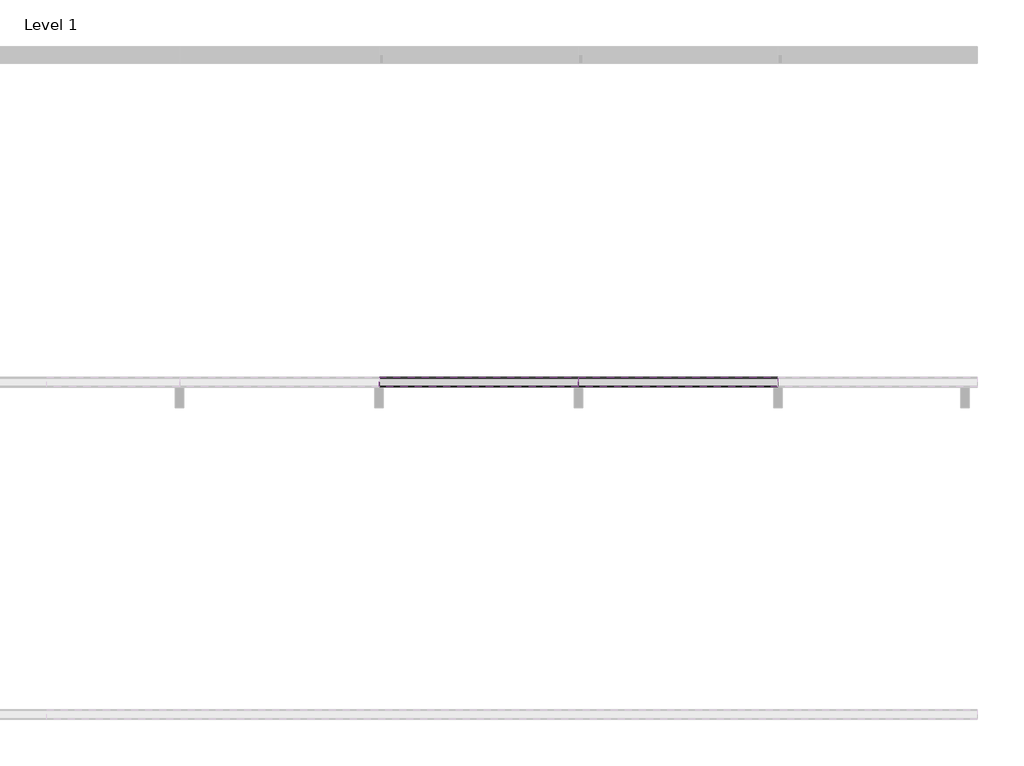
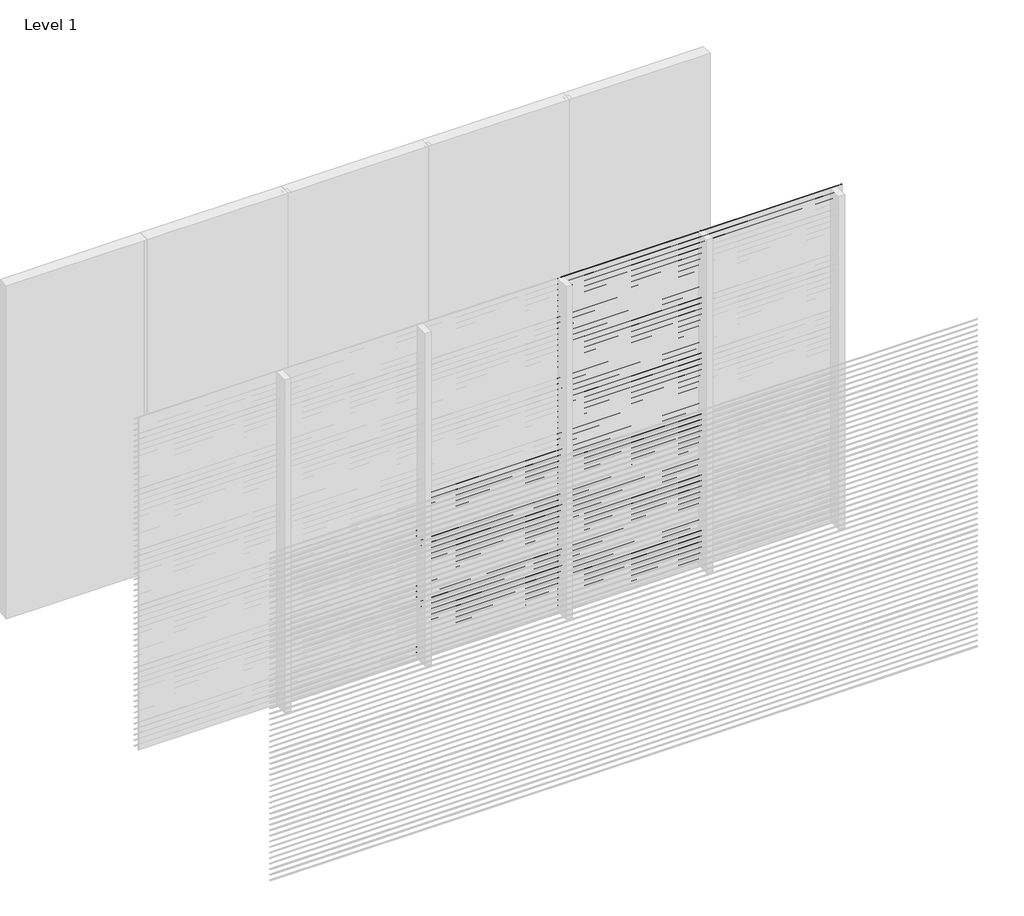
# One storey, part 4 of 16: 92 proxies.
"""IFC4 building model written with IfcOpenShell, lengths in millimetres."""

from ifc_helpers import new_model, si_unit, frame, origin, place, context, project, spatial, polyline, outline, extrude, element, save

model = new_model("IFC4")

# Units and contexts
model_context = context("Model", 3, world=origin())
ifc_project = project(units=[si_unit("LENGTHUNIT", "METRE", prefix="MILLI")], contexts=[model_context])

# Site, building, storey
site = spatial("IfcSite", under=ifc_project)
building = spatial("IfcBuilding", under=site)
storey = spatial("IfcBuildingStorey", under=building, Name="Level 1", Elevation=0.0)

# Proxies
placement = place(None, origin())
element("IfcBuildingElementProxy", 1, Name="Wall Sweeps", at=placement, inside=storey, context=model_context, shape_type="SweptSolid", body=[
    extrude(outline(polyline([(-17995.0, 3000.0), (-17995.0, 2998.0), (-17939.0, 2954.0), (-17939.0, 2946.0), (-17997.0, 2991.5714286), (-17997.0, 3000.0), (-17995.0, 3000.0)])), frame((4799.9999998, 0.0, 0.0), z_axis=(1.0, 0.0, 0.0), x_axis=(0.0, 1.0, 0.0)), (0.0, 0.0, 1.0), 1200.0000002),
])
element("IfcBuildingElementProxy", 2, Name="Wall Sweeps", at=placement, inside=storey, context=model_context, shape_type="SweptSolid", body=[
    extrude(outline(polyline([(-17995.0, 2950.0), (-17995.0, 2948.0), (-17939.0, 2904.0), (-17939.0, 2896.0), (-17997.0, 2941.5714286), (-17997.0, 2950.0), (-17995.0, 2950.0)])), frame((4799.9999998, 0.0, 0.0), z_axis=(1.0, 0.0, 0.0), x_axis=(0.0, 1.0, 0.0)), (0.0, 0.0, 1.0), 1200.0000002),
])
element("IfcBuildingElementProxy", 3, Name="Wall Sweeps", at=placement, inside=storey, context=model_context, shape_type="SweptSolid", body=[
    extrude(outline(polyline([(-17995.0, 2900.0), (-17995.0, 2898.0), (-17939.0, 2854.0), (-17939.0, 2846.0), (-17997.0, 2891.5714286), (-17997.0, 2900.0), (-17995.0, 2900.0)])), frame((4799.9999998, 0.0, 0.0), z_axis=(1.0, 0.0, 0.0), x_axis=(0.0, 1.0, 0.0)), (0.0, 0.0, 1.0), 1200.0000002),
])
element("IfcBuildingElementProxy", 4, Name="Wall Sweeps", at=placement, inside=storey, context=model_context, shape_type="SweptSolid", body=[
    extrude(outline(polyline([(-17995.0, 3000.0), (-17995.0, 2998.0), (-17939.0, 2954.0), (-17939.0, 2946.0), (-17997.0, 2991.5714286), (-17997.0, 3000.0), (-17995.0, 3000.0)])), frame((3599.9999999, 0.0, 0.0), z_axis=(1.0, 0.0, 0.0), x_axis=(0.0, 1.0, 0.0)), (0.0, 0.0, 1.0), 1199.9999999),
])
element("IfcBuildingElementProxy", 5, Name="Wall Sweeps", at=placement, inside=storey, context=model_context, shape_type="SweptSolid", body=[
    extrude(outline(polyline([(-17995.0, 2950.0), (-17995.0, 2948.0), (-17939.0, 2904.0), (-17939.0, 2896.0), (-17997.0, 2941.5714286), (-17997.0, 2950.0), (-17995.0, 2950.0)])), frame((3599.9999999, 0.0, 0.0), z_axis=(1.0, 0.0, 0.0), x_axis=(0.0, 1.0, 0.0)), (0.0, 0.0, 1.0), 1199.9999999),
])
element("IfcBuildingElementProxy", 6, Name="Wall Sweeps", at=placement, inside=storey, context=model_context, shape_type="SweptSolid", body=[
    extrude(outline(polyline([(-17995.0, 2900.0), (-17995.0, 2898.0), (-17939.0, 2854.0), (-17939.0, 2846.0), (-17997.0, 2891.5714286), (-17997.0, 2900.0), (-17995.0, 2900.0)])), frame((3599.9999999, 0.0, 0.0), z_axis=(1.0, 0.0, 0.0), x_axis=(0.0, 1.0, 0.0)), (0.0, 0.0, 1.0), 1199.9999999),
])
element("IfcBuildingElementProxy", 7, Name="Wall Sweeps", at=placement, inside=storey, context=model_context, shape_type="SweptSolid", body=[
    extrude(outline(polyline([(-17995.0, 2850.0), (-17995.0, 2848.0), (-17939.0, 2804.0), (-17939.0, 2796.0), (-17997.0, 2841.5714286), (-17997.0, 2850.0), (-17995.0, 2850.0)])), frame((3599.9999999, 0.0, 0.0), z_axis=(1.0, 0.0, 0.0), x_axis=(0.0, 1.0, 0.0)), (0.0, 0.0, 1.0), 1199.9999999),
])
element("IfcBuildingElementProxy", 8, Name="Wall Sweeps", at=placement, inside=storey, context=model_context, shape_type="SweptSolid", body=[
    extrude(outline(polyline([(-17995.0, 2800.0), (-17995.0, 2798.0), (-17939.0, 2754.0), (-17939.0, 2746.0), (-17997.0, 2791.5714286), (-17997.0, 2800.0), (-17995.0, 2800.0)])), frame((3599.9999999, 0.0, 0.0), z_axis=(1.0, 0.0, 0.0), x_axis=(0.0, 1.0, 0.0)), (0.0, 0.0, 1.0), 1199.9999999),
])
element("IfcBuildingElementProxy", 9, Name="Wall Sweeps", at=placement, inside=storey, context=model_context, shape_type="SweptSolid", body=[
    extrude(outline(polyline([(-17995.0, 2750.0), (-17995.0, 2748.0), (-17939.0, 2704.0), (-17939.0, 2696.0), (-17997.0, 2741.5714286), (-17997.0, 2750.0), (-17995.0, 2750.0)])), frame((3599.9999999, 0.0, 0.0), z_axis=(1.0, 0.0, 0.0), x_axis=(0.0, 1.0, 0.0)), (0.0, 0.0, 1.0), 1199.9999999),
])
element("IfcBuildingElementProxy", 10, Name="Wall Sweeps", at=placement, inside=storey, context=model_context, shape_type="SweptSolid", body=[
    extrude(outline(polyline([(-17995.0, 2700.0), (-17995.0, 2698.0), (-17939.0, 2654.0), (-17939.0, 2646.0), (-17997.0, 2691.5714286), (-17997.0, 2700.0), (-17995.0, 2700.0)])), frame((3599.9999999, 0.0, 0.0), z_axis=(1.0, 0.0, 0.0), x_axis=(0.0, 1.0, 0.0)), (0.0, 0.0, 1.0), 1199.9999999),
])
element("IfcBuildingElementProxy", 11, Name="Wall Sweeps", at=placement, inside=storey, context=model_context, shape_type="SweptSolid", body=[
    extrude(outline(polyline([(-17995.0, 2650.0), (-17995.0, 2648.0), (-17939.0, 2604.0), (-17939.0, 2596.0), (-17997.0, 2641.5714286), (-17997.0, 2650.0), (-17995.0, 2650.0)])), frame((3599.9999999, 0.0, 0.0), z_axis=(1.0, 0.0, 0.0), x_axis=(0.0, 1.0, 0.0)), (0.0, 0.0, 1.0), 1199.9999999),
])
element("IfcBuildingElementProxy", 12, Name="Wall Sweeps", at=placement, inside=storey, context=model_context, shape_type="SweptSolid", body=[
    extrude(outline(polyline([(-17995.0, 2600.0), (-17995.0, 2598.0), (-17939.0, 2554.0), (-17939.0, 2546.0), (-17997.0, 2591.5714286), (-17997.0, 2600.0), (-17995.0, 2600.0)])), frame((3599.9999999, 0.0, 0.0), z_axis=(1.0, 0.0, 0.0), x_axis=(0.0, 1.0, 0.0)), (0.0, 0.0, 1.0), 1199.9999999),
])
element("IfcBuildingElementProxy", 13, Name="Wall Sweeps", at=placement, inside=storey, context=model_context, shape_type="SweptSolid", body=[
    extrude(outline(polyline([(-17995.0, 2550.0), (-17995.0, 2548.0), (-17939.0, 2504.0), (-17939.0, 2496.0), (-17997.0, 2541.5714286), (-17997.0, 2550.0), (-17995.0, 2550.0)])), frame((3599.9999999, 0.0, 0.0), z_axis=(1.0, 0.0, 0.0), x_axis=(0.0, 1.0, 0.0)), (0.0, 0.0, 1.0), 1199.9999999),
])
element("IfcBuildingElementProxy", 14, Name="Wall Sweeps", at=placement, inside=storey, context=model_context, shape_type="SweptSolid", body=[
    extrude(outline(polyline([(-17995.0, 2500.0), (-17995.0, 2498.0), (-17939.0, 2454.0), (-17939.0, 2446.0), (-17997.0, 2491.5714286), (-17997.0, 2500.0), (-17995.0, 2500.0)])), frame((3599.9999999, 0.0, 0.0), z_axis=(1.0, 0.0, 0.0), x_axis=(0.0, 1.0, 0.0)), (0.0, 0.0, 1.0), 1199.9999999),
])
element("IfcBuildingElementProxy", 15, Name="Wall Sweeps", at=placement, inside=storey, context=model_context, shape_type="SweptSolid", body=[
    extrude(outline(polyline([(-17995.0, 2450.0), (-17995.0, 2448.0), (-17939.0, 2404.0), (-17939.0, 2396.0), (-17997.0, 2441.5714286), (-17997.0, 2450.0), (-17995.0, 2450.0)])), frame((3599.9999999, 0.0, 0.0), z_axis=(1.0, 0.0, 0.0), x_axis=(0.0, 1.0, 0.0)), (0.0, 0.0, 1.0), 1199.9999999),
])
element("IfcBuildingElementProxy", 16, Name="Wall Sweeps", at=placement, inside=storey, context=model_context, shape_type="SweptSolid", body=[
    extrude(outline(polyline([(-17995.0, 2400.0), (-17995.0, 2398.0), (-17939.0, 2354.0), (-17939.0, 2346.0), (-17997.0, 2391.5714286), (-17997.0, 2400.0), (-17995.0, 2400.0)])), frame((3599.9999999, 0.0, 0.0), z_axis=(1.0, 0.0, 0.0), x_axis=(0.0, 1.0, 0.0)), (0.0, 0.0, 1.0), 1199.9999999),
])
element("IfcBuildingElementProxy", 17, Name="Wall Sweeps", at=placement, inside=storey, context=model_context, shape_type="SweptSolid", body=[
    extrude(outline(polyline([(-17995.0, 2350.0), (-17995.0, 2348.0), (-17939.0, 2304.0), (-17939.0, 2296.0), (-17997.0, 2341.5714286), (-17997.0, 2350.0), (-17995.0, 2350.0)])), frame((3599.9999999, 0.0, 0.0), z_axis=(1.0, 0.0, 0.0), x_axis=(0.0, 1.0, 0.0)), (0.0, 0.0, 1.0), 1199.9999999),
])
element("IfcBuildingElementProxy", 18, Name="Wall Sweeps", at=placement, inside=storey, context=model_context, shape_type="SweptSolid", body=[
    extrude(outline(polyline([(-17995.0, 2300.0), (-17995.0, 2298.0), (-17939.0, 2254.0), (-17939.0, 2246.0), (-17997.0, 2291.5714286), (-17997.0, 2300.0), (-17995.0, 2300.0)])), frame((3599.9999999, 0.0, 0.0), z_axis=(1.0, 0.0, 0.0), x_axis=(0.0, 1.0, 0.0)), (0.0, 0.0, 1.0), 1199.9999999),
])
element("IfcBuildingElementProxy", 19, Name="Wall Sweeps", at=placement, inside=storey, context=model_context, shape_type="SweptSolid", body=[
    extrude(outline(polyline([(-17995.0, 2250.0), (-17995.0, 2248.0), (-17939.0, 2204.0), (-17939.0, 2196.0), (-17997.0, 2241.5714286), (-17997.0, 2250.0), (-17995.0, 2250.0)])), frame((3599.9999999, 0.0, 0.0), z_axis=(1.0, 0.0, 0.0), x_axis=(0.0, 1.0, 0.0)), (0.0, 0.0, 1.0), 1199.9999999),
])
element("IfcBuildingElementProxy", 20, Name="Wall Sweeps", at=placement, inside=storey, context=model_context, shape_type="SweptSolid", body=[
    extrude(outline(polyline([(-17995.0, 2200.0), (-17995.0, 2198.0), (-17939.0, 2154.0), (-17939.0, 2146.0), (-17997.0, 2191.5714286), (-17997.0, 2200.0), (-17995.0, 2200.0)])), frame((3599.9999999, 0.0, 0.0), z_axis=(1.0, 0.0, 0.0), x_axis=(0.0, 1.0, 0.0)), (0.0, 0.0, 1.0), 1199.9999999),
])
element("IfcBuildingElementProxy", 21, Name="Wall Sweeps", at=placement, inside=storey, context=model_context, shape_type="SweptSolid", body=[
    extrude(outline(polyline([(-17995.0, 2150.0), (-17995.0, 2148.0), (-17939.0, 2104.0), (-17939.0, 2096.0), (-17997.0, 2141.5714286), (-17997.0, 2150.0), (-17995.0, 2150.0)])), frame((3599.9999999, 0.0, 0.0), z_axis=(1.0, 0.0, 0.0), x_axis=(0.0, 1.0, 0.0)), (0.0, 0.0, 1.0), 1199.9999999),
])
element("IfcBuildingElementProxy", 22, Name="Wall Sweeps", at=placement, inside=storey, context=model_context, shape_type="SweptSolid", body=[
    extrude(outline(polyline([(-17995.0, 2100.0), (-17995.0, 2098.0), (-17939.0, 2054.0), (-17939.0, 2046.0), (-17997.0, 2091.5714286), (-17997.0, 2100.0), (-17995.0, 2100.0)])), frame((3599.9999999, 0.0, 0.0), z_axis=(1.0, 0.0, 0.0), x_axis=(0.0, 1.0, 0.0)), (0.0, 0.0, 1.0), 1199.9999999),
])
element("IfcBuildingElementProxy", 23, Name="Wall Sweeps", at=placement, inside=storey, context=model_context, shape_type="SweptSolid", body=[
    extrude(outline(polyline([(-17995.0, 2050.0), (-17995.0, 2048.0), (-17939.0, 2004.0), (-17939.0, 1996.0), (-17997.0, 2041.5714286), (-17997.0, 2050.0), (-17995.0, 2050.0)])), frame((3599.9999999, 0.0, 0.0), z_axis=(1.0, 0.0, 0.0), x_axis=(0.0, 1.0, 0.0)), (0.0, 0.0, 1.0), 1199.9999999),
])
element("IfcBuildingElementProxy", 24, Name="Wall Sweeps", at=placement, inside=storey, context=model_context, shape_type="SweptSolid", body=[
    extrude(outline(polyline([(-17995.0, 2000.0), (-17995.0, 1998.0), (-17939.0, 1954.0), (-17939.0, 1946.0), (-17997.0, 1991.5714286), (-17997.0, 2000.0), (-17995.0, 2000.0)])), frame((3599.9999999, 0.0, 0.0), z_axis=(1.0, 0.0, 0.0), x_axis=(0.0, 1.0, 0.0)), (0.0, 0.0, 1.0), 1199.9999999),
])
element("IfcBuildingElementProxy", 25, Name="Wall Sweeps", at=placement, inside=storey, context=model_context, shape_type="SweptSolid", body=[
    extrude(outline(polyline([(-17995.0, 1950.0), (-17995.0, 1948.0), (-17939.0, 1904.0), (-17939.0, 1896.0), (-17997.0, 1941.5714286), (-17997.0, 1950.0), (-17995.0, 1950.0)])), frame((3599.9999999, 0.0, 0.0), z_axis=(1.0, 0.0, 0.0), x_axis=(0.0, 1.0, 0.0)), (0.0, 0.0, 1.0), 1199.9999999),
])
element("IfcBuildingElementProxy", 26, Name="Wall Sweeps", at=placement, inside=storey, context=model_context, shape_type="SweptSolid", body=[
    extrude(outline(polyline([(-17995.0, 1900.0), (-17995.0, 1898.0), (-17939.0, 1854.0), (-17939.0, 1846.0), (-17997.0, 1891.5714286), (-17997.0, 1900.0), (-17995.0, 1900.0)])), frame((3599.9999999, 0.0, 0.0), z_axis=(1.0, 0.0, 0.0), x_axis=(0.0, 1.0, 0.0)), (0.0, 0.0, 1.0), 1199.9999999),
])
element("IfcBuildingElementProxy", 27, Name="Wall Sweeps", at=placement, inside=storey, context=model_context, shape_type="SweptSolid", body=[
    extrude(outline(polyline([(-17995.0, 1850.0), (-17995.0, 1848.0), (-17939.0, 1804.0), (-17939.0, 1796.0), (-17997.0, 1841.5714286), (-17997.0, 1850.0), (-17995.0, 1850.0)])), frame((3599.9999999, 0.0, 0.0), z_axis=(1.0, 0.0, 0.0), x_axis=(0.0, 1.0, 0.0)), (0.0, 0.0, 1.0), 1199.9999999),
])
element("IfcBuildingElementProxy", 28, Name="Wall Sweeps", at=placement, inside=storey, context=model_context, shape_type="SweptSolid", body=[
    extrude(outline(polyline([(-17995.0, 1800.0), (-17995.0, 1798.0), (-17939.0, 1754.0), (-17939.0, 1746.0), (-17997.0, 1791.5714286), (-17997.0, 1800.0), (-17995.0, 1800.0)])), frame((3599.9999999, 0.0, 0.0), z_axis=(1.0, 0.0, 0.0), x_axis=(0.0, 1.0, 0.0)), (0.0, 0.0, 1.0), 1199.9999999),
])
element("IfcBuildingElementProxy", 29, Name="Wall Sweeps", at=placement, inside=storey, context=model_context, shape_type="SweptSolid", body=[
    extrude(outline(polyline([(-17995.0, 1750.0), (-17995.0, 1748.0), (-17939.0, 1704.0), (-17939.0, 1696.0), (-17997.0, 1741.5714286), (-17997.0, 1750.0), (-17995.0, 1750.0)])), frame((3599.9999999, 0.0, 0.0), z_axis=(1.0, 0.0, 0.0), x_axis=(0.0, 1.0, 0.0)), (0.0, 0.0, 1.0), 1199.9999999),
])
element("IfcBuildingElementProxy", 30, Name="Wall Sweeps", at=placement, inside=storey, context=model_context, shape_type="SweptSolid", body=[
    extrude(outline(polyline([(-17995.0, 1700.0), (-17995.0, 1698.0), (-17939.0, 1654.0), (-17939.0, 1646.0), (-17997.0, 1691.5714286), (-17997.0, 1700.0), (-17995.0, 1700.0)])), frame((3599.9999999, 0.0, 0.0), z_axis=(1.0, 0.0, 0.0), x_axis=(0.0, 1.0, 0.0)), (0.0, 0.0, 1.0), 1199.9999999),
])
element("IfcBuildingElementProxy", 31, Name="Wall Sweeps", at=placement, inside=storey, context=model_context, shape_type="SweptSolid", body=[
    extrude(outline(polyline([(-17995.0, 1650.0), (-17995.0, 1648.0), (-17939.0, 1604.0), (-17939.0, 1596.0), (-17997.0, 1641.5714286), (-17997.0, 1650.0), (-17995.0, 1650.0)])), frame((3599.9999999, 0.0, 0.0), z_axis=(1.0, 0.0, 0.0), x_axis=(0.0, 1.0, 0.0)), (0.0, 0.0, 1.0), 1199.9999999),
])
element("IfcBuildingElementProxy", 32, Name="Wall Sweeps", at=placement, inside=storey, context=model_context, shape_type="SweptSolid", body=[
    extrude(outline(polyline([(-17995.0, 1600.0), (-17995.0, 1598.0), (-17939.0, 1554.0), (-17939.0, 1546.0), (-17997.0, 1591.5714286), (-17997.0, 1600.0), (-17995.0, 1600.0)])), frame((3599.9999999, 0.0, 0.0), z_axis=(1.0, 0.0, 0.0), x_axis=(0.0, 1.0, 0.0)), (0.0, 0.0, 1.0), 1199.9999999),
])
element("IfcBuildingElementProxy", 33, Name="Wall Sweeps", at=placement, inside=storey, context=model_context, shape_type="SweptSolid", body=[
    extrude(outline(polyline([(-17995.0, 1550.0), (-17995.0, 1548.0), (-17939.0, 1504.0), (-17939.0, 1496.0), (-17997.0, 1541.5714286), (-17997.0, 1550.0), (-17995.0, 1550.0)])), frame((3599.9999999, 0.0, 0.0), z_axis=(1.0, 0.0, 0.0), x_axis=(0.0, 1.0, 0.0)), (0.0, 0.0, 1.0), 1199.9999999),
])
element("IfcBuildingElementProxy", 34, Name="Wall Sweeps", at=placement, inside=storey, context=model_context, shape_type="SweptSolid", body=[
    extrude(outline(polyline([(-17995.0, 1500.0), (-17995.0, 1498.0), (-17939.0, 1454.0), (-17939.0, 1446.0), (-17997.0, 1491.5714286), (-17997.0, 1500.0), (-17995.0, 1500.0)])), frame((3599.9999999, 0.0, 0.0), z_axis=(1.0, 0.0, 0.0), x_axis=(0.0, 1.0, 0.0)), (0.0, 0.0, 1.0), 1199.9999999),
])
element("IfcBuildingElementProxy", 35, Name="Wall Sweeps", at=placement, inside=storey, context=model_context, shape_type="SweptSolid", body=[
    extrude(outline(polyline([(-17995.0, 1450.0), (-17995.0, 1448.0), (-17939.0, 1404.0), (-17939.0, 1396.0), (-17997.0, 1441.5714286), (-17997.0, 1450.0), (-17995.0, 1450.0)])), frame((3599.9999999, 0.0, 0.0), z_axis=(1.0, 0.0, 0.0), x_axis=(0.0, 1.0, 0.0)), (0.0, 0.0, 1.0), 1199.9999999),
])
element("IfcBuildingElementProxy", 36, Name="Wall Sweeps", at=placement, inside=storey, context=model_context, shape_type="SweptSolid", body=[
    extrude(outline(polyline([(-17995.0, 1400.0), (-17995.0, 1398.0), (-17939.0, 1354.0), (-17939.0, 1346.0), (-17997.0, 1391.5714286), (-17997.0, 1400.0), (-17995.0, 1400.0)])), frame((3599.9999999, 0.0, 0.0), z_axis=(1.0, 0.0, 0.0), x_axis=(0.0, 1.0, 0.0)), (0.0, 0.0, 1.0), 1199.9999999),
])
element("IfcBuildingElementProxy", 37, Name="Wall Sweeps", at=placement, inside=storey, context=model_context, shape_type="SweptSolid", body=[
    extrude(outline(polyline([(-17995.0, 1350.0), (-17995.0, 1348.0), (-17939.0, 1304.0), (-17939.0, 1296.0), (-17997.0, 1341.5714286), (-17997.0, 1350.0), (-17995.0, 1350.0)])), frame((3599.9999999, 0.0, 0.0), z_axis=(1.0, 0.0, 0.0), x_axis=(0.0, 1.0, 0.0)), (0.0, 0.0, 1.0), 1199.9999999),
])
element("IfcBuildingElementProxy", 38, Name="Wall Sweeps", at=placement, inside=storey, context=model_context, shape_type="SweptSolid", body=[
    extrude(outline(polyline([(-17995.0, 1300.0), (-17995.0, 1298.0), (-17939.0, 1254.0), (-17939.0, 1246.0), (-17997.0, 1291.5714286), (-17997.0, 1300.0), (-17995.0, 1300.0)])), frame((3599.9999999, 0.0, 0.0), z_axis=(1.0, 0.0, 0.0), x_axis=(0.0, 1.0, 0.0)), (0.0, 0.0, 1.0), 1199.9999999),
])
element("IfcBuildingElementProxy", 39, Name="Wall Sweeps", at=placement, inside=storey, context=model_context, shape_type="SweptSolid", body=[
    extrude(outline(polyline([(-17995.0, 1250.0), (-17995.0, 1248.0), (-17939.0, 1204.0), (-17939.0, 1196.0), (-17997.0, 1241.5714286), (-17997.0, 1250.0), (-17995.0, 1250.0)])), frame((3599.9999999, 0.0, 0.0), z_axis=(1.0, 0.0, 0.0), x_axis=(0.0, 1.0, 0.0)), (0.0, 0.0, 1.0), 1199.9999999),
])
element("IfcBuildingElementProxy", 40, Name="Wall Sweeps", at=placement, inside=storey, context=model_context, shape_type="SweptSolid", body=[
    extrude(outline(polyline([(-17995.0, 1200.0), (-17995.0, 1198.0), (-17939.0, 1154.0), (-17939.0, 1146.0), (-17997.0, 1191.5714286), (-17997.0, 1200.0), (-17995.0, 1200.0)])), frame((3599.9999999, 0.0, 0.0), z_axis=(1.0, 0.0, 0.0), x_axis=(0.0, 1.0, 0.0)), (0.0, 0.0, 1.0), 1199.9999999),
])
element("IfcBuildingElementProxy", 41, Name="Wall Sweeps", at=placement, inside=storey, context=model_context, shape_type="SweptSolid", body=[
    extrude(outline(polyline([(-17995.0, 1150.0), (-17995.0, 1148.0), (-17939.0, 1104.0), (-17939.0, 1096.0), (-17997.0, 1141.5714286), (-17997.0, 1150.0), (-17995.0, 1150.0)])), frame((3599.9999999, 0.0, 0.0), z_axis=(1.0, 0.0, 0.0), x_axis=(0.0, 1.0, 0.0)), (0.0, 0.0, 1.0), 1199.9999999),
])
element("IfcBuildingElementProxy", 42, Name="Wall Sweeps", at=placement, inside=storey, context=model_context, shape_type="SweptSolid", body=[
    extrude(outline(polyline([(-17995.0, 1100.0), (-17995.0, 1098.0), (-17939.0, 1054.0), (-17939.0, 1046.0), (-17997.0, 1091.5714286), (-17997.0, 1100.0), (-17995.0, 1100.0)])), frame((3599.9999999, 0.0, 0.0), z_axis=(1.0, 0.0, 0.0), x_axis=(0.0, 1.0, 0.0)), (0.0, 0.0, 1.0), 1199.9999999),
])
element("IfcBuildingElementProxy", 43, Name="Wall Sweeps", at=placement, inside=storey, context=model_context, shape_type="SweptSolid", body=[
    extrude(outline(polyline([(-17995.0, 1050.0), (-17995.0, 1048.0), (-17939.0, 1004.0), (-17939.0, 996.0), (-17997.0, 1041.5714286), (-17997.0, 1050.0), (-17995.0, 1050.0)])), frame((3599.9999999, 0.0, 0.0), z_axis=(1.0, 0.0, 0.0), x_axis=(0.0, 1.0, 0.0)), (0.0, 0.0, 1.0), 1199.9999999),
])
element("IfcBuildingElementProxy", 44, Name="Wall Sweeps", at=placement, inside=storey, context=model_context, shape_type="SweptSolid", body=[
    extrude(outline(polyline([(-17995.0, 1000.0), (-17995.0, 998.0), (-17939.0, 954.0), (-17939.0, 946.0), (-17997.0, 991.5714286), (-17997.0, 1000.0), (-17995.0, 1000.0)])), frame((3599.9999999, 0.0, 0.0), z_axis=(1.0, 0.0, 0.0), x_axis=(0.0, 1.0, 0.0)), (0.0, 0.0, 1.0), 1199.9999999),
])
element("IfcBuildingElementProxy", 45, Name="Wall Sweeps", at=placement, inside=storey, context=model_context, shape_type="SweptSolid", body=[
    extrude(outline(polyline([(-17995.0, 950.0), (-17995.0, 948.0), (-17939.0, 904.0), (-17939.0, 896.0), (-17997.0, 941.5714286), (-17997.0, 950.0), (-17995.0, 950.0)])), frame((3599.9999999, 0.0, 0.0), z_axis=(1.0, 0.0, 0.0), x_axis=(0.0, 1.0, 0.0)), (0.0, 0.0, 1.0), 1199.9999999),
])
element("IfcBuildingElementProxy", 46, Name="Wall Sweeps", at=placement, inside=storey, context=model_context, shape_type="SweptSolid", body=[
    extrude(outline(polyline([(-17995.0, 900.0), (-17995.0, 898.0), (-17939.0, 854.0), (-17939.0, 846.0), (-17997.0, 891.5714286), (-17997.0, 900.0), (-17995.0, 900.0)])), frame((3599.9999999, 0.0, 0.0), z_axis=(1.0, 0.0, 0.0), x_axis=(0.0, 1.0, 0.0)), (0.0, 0.0, 1.0), 1199.9999999),
])
element("IfcBuildingElementProxy", 47, Name="Wall Sweeps", at=placement, inside=storey, context=model_context, shape_type="SweptSolid", body=[
    extrude(outline(polyline([(-17995.0, 850.0), (-17995.0, 848.0), (-17939.0, 804.0), (-17939.0, 796.0), (-17997.0, 841.5714286), (-17997.0, 850.0), (-17995.0, 850.0)])), frame((3599.9999999, 0.0, 0.0), z_axis=(1.0, 0.0, 0.0), x_axis=(0.0, 1.0, 0.0)), (0.0, 0.0, 1.0), 1199.9999999),
])
element("IfcBuildingElementProxy", 48, Name="Wall Sweeps", at=placement, inside=storey, context=model_context, shape_type="SweptSolid", body=[
    extrude(outline(polyline([(-17995.0, 800.0), (-17995.0, 798.0), (-17939.0, 754.0), (-17939.0, 746.0), (-17997.0, 791.5714286), (-17997.0, 800.0), (-17995.0, 800.0)])), frame((3599.9999999, 0.0, 0.0), z_axis=(1.0, 0.0, 0.0), x_axis=(0.0, 1.0, 0.0)), (0.0, 0.0, 1.0), 1199.9999999),
])
element("IfcBuildingElementProxy", 49, Name="Wall Sweeps", at=placement, inside=storey, context=model_context, shape_type="SweptSolid", body=[
    extrude(outline(polyline([(-17995.0, 750.0), (-17995.0, 748.0), (-17939.0, 704.0), (-17939.0, 696.0), (-17997.0, 741.5714286), (-17997.0, 750.0), (-17995.0, 750.0)])), frame((3599.9999999, 0.0, 0.0), z_axis=(1.0, 0.0, 0.0), x_axis=(0.0, 1.0, 0.0)), (0.0, 0.0, 1.0), 1199.9999999),
])
element("IfcBuildingElementProxy", 50, Name="Wall Sweeps", at=placement, inside=storey, context=model_context, shape_type="SweptSolid", body=[
    extrude(outline(polyline([(-17995.0, 700.0), (-17995.0, 698.0), (-17939.0, 654.0), (-17939.0, 646.0), (-17997.0, 691.5714286), (-17997.0, 700.0), (-17995.0, 700.0)])), frame((3599.9999999, 0.0, 0.0), z_axis=(1.0, 0.0, 0.0), x_axis=(0.0, 1.0, 0.0)), (0.0, 0.0, 1.0), 1199.9999999),
])
element("IfcBuildingElementProxy", 51, Name="Wall Sweeps", at=placement, inside=storey, context=model_context, shape_type="SweptSolid", body=[
    extrude(outline(polyline([(-17995.0, 650.0), (-17995.0, 648.0), (-17939.0, 604.0), (-17939.0, 596.0), (-17997.0, 641.5714286), (-17997.0, 650.0), (-17995.0, 650.0)])), frame((3599.9999999, 0.0, 0.0), z_axis=(1.0, 0.0, 0.0), x_axis=(0.0, 1.0, 0.0)), (0.0, 0.0, 1.0), 1199.9999999),
])
element("IfcBuildingElementProxy", 52, Name="Wall Sweeps", at=placement, inside=storey, context=model_context, shape_type="SweptSolid", body=[
    extrude(outline(polyline([(-17995.0, 600.0), (-17995.0, 598.0), (-17939.0, 554.0), (-17939.0, 546.0), (-17997.0, 591.5714286), (-17997.0, 600.0), (-17995.0, 600.0)])), frame((3599.9999999, 0.0, 0.0), z_axis=(1.0, 0.0, 0.0), x_axis=(0.0, 1.0, 0.0)), (0.0, 0.0, 1.0), 1199.9999999),
])
element("IfcBuildingElementProxy", 53, Name="Wall Sweeps", at=placement, inside=storey, context=model_context, shape_type="SweptSolid", body=[
    extrude(outline(polyline([(-17995.0, 550.0), (-17995.0, 548.0), (-17939.0, 504.0), (-17939.0, 496.0), (-17997.0, 541.5714286), (-17997.0, 550.0), (-17995.0, 550.0)])), frame((3599.9999999, 0.0, 0.0), z_axis=(1.0, 0.0, 0.0), x_axis=(0.0, 1.0, 0.0)), (0.0, 0.0, 1.0), 1199.9999999),
])
element("IfcBuildingElementProxy", 54, Name="Wall Sweeps", at=placement, inside=storey, context=model_context, shape_type="SweptSolid", body=[
    extrude(outline(polyline([(-17995.0, 500.0), (-17995.0, 498.0), (-17939.0, 454.0), (-17939.0, 446.0), (-17997.0, 491.5714286), (-17997.0, 500.0), (-17995.0, 500.0)])), frame((3599.9999999, 0.0, 0.0), z_axis=(1.0, 0.0, 0.0), x_axis=(0.0, 1.0, 0.0)), (0.0, 0.0, 1.0), 1199.9999999),
])
element("IfcBuildingElementProxy", 55, Name="Wall Sweeps", at=placement, inside=storey, context=model_context, shape_type="SweptSolid", body=[
    extrude(outline(polyline([(-17995.0, 450.0), (-17995.0, 448.0), (-17939.0, 404.0), (-17939.0, 396.0), (-17997.0, 441.5714286), (-17997.0, 450.0), (-17995.0, 450.0)])), frame((3599.9999999, 0.0, 0.0), z_axis=(1.0, 0.0, 0.0), x_axis=(0.0, 1.0, 0.0)), (0.0, 0.0, 1.0), 1199.9999999),
])
element("IfcBuildingElementProxy", 56, Name="Wall Sweeps", at=placement, inside=storey, context=model_context, shape_type="SweptSolid", body=[
    extrude(outline(polyline([(-17995.0, 400.0), (-17995.0, 398.0), (-17939.0, 354.0), (-17939.0, 346.0), (-17997.0, 391.5714286), (-17997.0, 400.0), (-17995.0, 400.0)])), frame((3599.9999999, 0.0, 0.0), z_axis=(1.0, 0.0, 0.0), x_axis=(0.0, 1.0, 0.0)), (0.0, 0.0, 1.0), 1199.9999999),
])
element("IfcBuildingElementProxy", 57, Name="Wall Sweeps", at=placement, inside=storey, context=model_context, shape_type="SweptSolid", body=[
    extrude(outline(polyline([(-17995.0, 350.0), (-17995.0, 348.0), (-17939.0, 304.0), (-17939.0, 296.0), (-17997.0, 341.5714286), (-17997.0, 350.0), (-17995.0, 350.0)])), frame((3599.9999999, 0.0, 0.0), z_axis=(1.0, 0.0, 0.0), x_axis=(0.0, 1.0, 0.0)), (0.0, 0.0, 1.0), 1199.9999999),
])
element("IfcBuildingElementProxy", 58, Name="Wall Sweeps", at=placement, inside=storey, context=model_context, shape_type="SweptSolid", body=[
    extrude(outline(polyline([(-17995.0, 300.0), (-17995.0, 298.0), (-17939.0, 254.0), (-17939.0, 246.0), (-17997.0, 291.5714286), (-17997.0, 300.0), (-17995.0, 300.0)])), frame((3599.9999999, 0.0, 0.0), z_axis=(1.0, 0.0, 0.0), x_axis=(0.0, 1.0, 0.0)), (0.0, 0.0, 1.0), 1199.9999999),
])
element("IfcBuildingElementProxy", 59, Name="Wall Sweeps", at=placement, inside=storey, context=model_context, shape_type="SweptSolid", body=[
    extrude(outline(polyline([(-17995.0, 250.0), (-17995.0, 248.0), (-17939.0, 204.0), (-17939.0, 196.0), (-17997.0, 241.5714286), (-17997.0, 250.0), (-17995.0, 250.0)])), frame((3599.9999999, 0.0, 0.0), z_axis=(1.0, 0.0, 0.0), x_axis=(0.0, 1.0, 0.0)), (0.0, 0.0, 1.0), 1199.9999999),
])
element("IfcBuildingElementProxy", 60, Name="Wall Sweeps", at=placement, inside=storey, context=model_context, shape_type="SweptSolid", body=[
    extrude(outline(polyline([(-17995.0, 200.0), (-17995.0, 198.0), (-17939.0, 154.0), (-17939.0, 146.0), (-17997.0, 191.5714286), (-17997.0, 200.0), (-17995.0, 200.0)])), frame((3599.9999999, 0.0, 0.0), z_axis=(1.0, 0.0, 0.0), x_axis=(0.0, 1.0, 0.0)), (0.0, 0.0, 1.0), 1199.9999999),
])
element("IfcBuildingElementProxy", 61, Name="Wall Sweeps", at=placement, inside=storey, context=model_context, shape_type="SweptSolid", body=[
    extrude(outline(polyline([(-17995.0, 150.0), (-17995.0, 148.0), (-17939.0, 104.0), (-17939.0, 96.0), (-17997.0, 141.5714286), (-17997.0, 150.0), (-17995.0, 150.0)])), frame((3599.9999999, 0.0, 0.0), z_axis=(1.0, 0.0, 0.0), x_axis=(0.0, 1.0, 0.0)), (0.0, 0.0, 1.0), 1199.9999999),
])
element("IfcBuildingElementProxy", 62, Name="Wall Sweeps", at=placement, inside=storey, context=model_context, shape_type="SweptSolid", body=[
    extrude(outline(polyline([(-17995.0, 100.0), (-17995.0, 98.0), (-17939.0, 54.0), (-17939.0, 46.0), (-17997.0, 91.5714286), (-17997.0, 100.0), (-17995.0, 100.0)])), frame((3599.9999999, 0.0, 0.0), z_axis=(1.0, 0.0, 0.0), x_axis=(0.0, 1.0, 0.0)), (0.0, 0.0, 1.0), 1199.9999999),
])
element("IfcBuildingElementProxy", 63, Name="Wall Sweeps", at=placement, inside=storey, context=model_context, shape_type="SweptSolid", body=[
    extrude(outline(polyline([(-17995.0, 50.0), (-17995.0, 48.0), (-17939.0, 4.0), (-17939.0, -4.0), (-17997.0, 41.5714286), (-17997.0, 50.0), (-17995.0, 50.0)])), frame((3599.9999999, 0.0, 0.0), z_axis=(1.0, 0.0, 0.0), x_axis=(0.0, 1.0, 0.0)), (0.0, 0.0, 1.0), 1199.9999999),
])
element("IfcBuildingElementProxy", 64, Name="Wall Sweeps", at=placement, inside=storey, context=model_context, shape_type="SweptSolid", body=[
    extrude(outline(polyline([(-17995.0, 1450.0), (-17995.0, 1448.0), (-17939.0, 1404.0), (-17939.0, 1396.0), (-17997.0, 1441.5714286), (-17997.0, 1450.0), (-17995.0, 1450.0)])), frame((2400.0000001, 0.0, 0.0), z_axis=(1.0, 0.0, 0.0), x_axis=(0.0, 1.0, 0.0)), (0.0, 0.0, 1.0), 1199.9999999),
])
element("IfcBuildingElementProxy", 65, Name="Wall Sweeps", at=placement, inside=storey, context=model_context, shape_type="SweptSolid", body=[
    extrude(outline(polyline([(-17995.0, 1400.0), (-17995.0, 1398.0), (-17939.0, 1354.0), (-17939.0, 1346.0), (-17997.0, 1391.5714286), (-17997.0, 1400.0), (-17995.0, 1400.0)])), frame((2400.0000001, 0.0, 0.0), z_axis=(1.0, 0.0, 0.0), x_axis=(0.0, 1.0, 0.0)), (0.0, 0.0, 1.0), 1199.9999999),
])
element("IfcBuildingElementProxy", 66, Name="Wall Sweeps", at=placement, inside=storey, context=model_context, shape_type="SweptSolid", body=[
    extrude(outline(polyline([(-17995.0, 1350.0), (-17995.0, 1348.0), (-17939.0, 1304.0), (-17939.0, 1296.0), (-17997.0, 1341.5714286), (-17997.0, 1350.0), (-17995.0, 1350.0)])), frame((2400.0000001, 0.0, 0.0), z_axis=(1.0, 0.0, 0.0), x_axis=(0.0, 1.0, 0.0)), (0.0, 0.0, 1.0), 1199.9999999),
])
element("IfcBuildingElementProxy", 67, Name="Wall Sweeps", at=placement, inside=storey, context=model_context, shape_type="SweptSolid", body=[
    extrude(outline(polyline([(-17995.0, 1300.0), (-17995.0, 1298.0), (-17939.0, 1254.0), (-17939.0, 1246.0), (-17997.0, 1291.5714286), (-17997.0, 1300.0), (-17995.0, 1300.0)])), frame((2400.0000001, 0.0, 0.0), z_axis=(1.0, 0.0, 0.0), x_axis=(0.0, 1.0, 0.0)), (0.0, 0.0, 1.0), 1199.9999999),
])
element("IfcBuildingElementProxy", 68, Name="Wall Sweeps", at=placement, inside=storey, context=model_context, shape_type="SweptSolid", body=[
    extrude(outline(polyline([(-17995.0, 1250.0), (-17995.0, 1248.0), (-17939.0, 1204.0), (-17939.0, 1196.0), (-17997.0, 1241.5714286), (-17997.0, 1250.0), (-17995.0, 1250.0)])), frame((2400.0000001, 0.0, 0.0), z_axis=(1.0, 0.0, 0.0), x_axis=(0.0, 1.0, 0.0)), (0.0, 0.0, 1.0), 1199.9999999),
])
element("IfcBuildingElementProxy", 69, Name="Wall Sweeps", at=placement, inside=storey, context=model_context, shape_type="SweptSolid", body=[
    extrude(outline(polyline([(-17995.0, 1200.0), (-17995.0, 1198.0), (-17939.0, 1154.0), (-17939.0, 1146.0), (-17997.0, 1191.5714286), (-17997.0, 1200.0), (-17995.0, 1200.0)])), frame((2400.0000001, 0.0, 0.0), z_axis=(1.0, 0.0, 0.0), x_axis=(0.0, 1.0, 0.0)), (0.0, 0.0, 1.0), 1199.9999999),
])
element("IfcBuildingElementProxy", 70, Name="Wall Sweeps", at=placement, inside=storey, context=model_context, shape_type="SweptSolid", body=[
    extrude(outline(polyline([(-17995.0, 1150.0), (-17995.0, 1148.0), (-17939.0, 1104.0), (-17939.0, 1096.0), (-17997.0, 1141.5714286), (-17997.0, 1150.0), (-17995.0, 1150.0)])), frame((2400.0000001, 0.0, 0.0), z_axis=(1.0, 0.0, 0.0), x_axis=(0.0, 1.0, 0.0)), (0.0, 0.0, 1.0), 1199.9999999),
])
element("IfcBuildingElementProxy", 71, Name="Wall Sweeps", at=placement, inside=storey, context=model_context, shape_type="SweptSolid", body=[
    extrude(outline(polyline([(-17995.0, 1100.0), (-17995.0, 1098.0), (-17939.0, 1054.0), (-17939.0, 1046.0), (-17997.0, 1091.5714286), (-17997.0, 1100.0), (-17995.0, 1100.0)])), frame((2400.0000001, 0.0, 0.0), z_axis=(1.0, 0.0, 0.0), x_axis=(0.0, 1.0, 0.0)), (0.0, 0.0, 1.0), 1199.9999999),
])
element("IfcBuildingElementProxy", 72, Name="Wall Sweeps", at=placement, inside=storey, context=model_context, shape_type="SweptSolid", body=[
    extrude(outline(polyline([(-17995.0, 1050.0), (-17995.0, 1048.0), (-17939.0, 1004.0), (-17939.0, 996.0), (-17997.0, 1041.5714286), (-17997.0, 1050.0), (-17995.0, 1050.0)])), frame((2400.0000001, 0.0, 0.0), z_axis=(1.0, 0.0, 0.0), x_axis=(0.0, 1.0, 0.0)), (0.0, 0.0, 1.0), 1199.9999999),
])
element("IfcBuildingElementProxy", 73, Name="Wall Sweeps", at=placement, inside=storey, context=model_context, shape_type="SweptSolid", body=[
    extrude(outline(polyline([(-17995.0, 1000.0), (-17995.0, 998.0), (-17939.0, 954.0), (-17939.0, 946.0), (-17997.0, 991.5714286), (-17997.0, 1000.0), (-17995.0, 1000.0)])), frame((2400.0000001, 0.0, 0.0), z_axis=(1.0, 0.0, 0.0), x_axis=(0.0, 1.0, 0.0)), (0.0, 0.0, 1.0), 1199.9999999),
])
element("IfcBuildingElementProxy", 74, Name="Wall Sweeps", at=placement, inside=storey, context=model_context, shape_type="SweptSolid", body=[
    extrude(outline(polyline([(-17995.0, 950.0), (-17995.0, 948.0), (-17939.0, 904.0), (-17939.0, 896.0), (-17997.0, 941.5714286), (-17997.0, 950.0), (-17995.0, 950.0)])), frame((2400.0000001, 0.0, 0.0), z_axis=(1.0, 0.0, 0.0), x_axis=(0.0, 1.0, 0.0)), (0.0, 0.0, 1.0), 1199.9999999),
])
element("IfcBuildingElementProxy", 75, Name="Wall Sweeps", at=placement, inside=storey, context=model_context, shape_type="SweptSolid", body=[
    extrude(outline(polyline([(-17995.0, 900.0), (-17995.0, 898.0), (-17939.0, 854.0), (-17939.0, 846.0), (-17997.0, 891.5714286), (-17997.0, 900.0), (-17995.0, 900.0)])), frame((2400.0000001, 0.0, 0.0), z_axis=(1.0, 0.0, 0.0), x_axis=(0.0, 1.0, 0.0)), (0.0, 0.0, 1.0), 1199.9999999),
])
element("IfcBuildingElementProxy", 76, Name="Wall Sweeps", at=placement, inside=storey, context=model_context, shape_type="SweptSolid", body=[
    extrude(outline(polyline([(-17995.0, 850.0), (-17995.0, 848.0), (-17939.0, 804.0), (-17939.0, 796.0), (-17997.0, 841.5714286), (-17997.0, 850.0), (-17995.0, 850.0)])), frame((2400.0000001, 0.0, 0.0), z_axis=(1.0, 0.0, 0.0), x_axis=(0.0, 1.0, 0.0)), (0.0, 0.0, 1.0), 1199.9999999),
])
element("IfcBuildingElementProxy", 77, Name="Wall Sweeps", at=placement, inside=storey, context=model_context, shape_type="SweptSolid", body=[
    extrude(outline(polyline([(-17995.0, 800.0), (-17995.0, 798.0), (-17939.0, 754.0), (-17939.0, 746.0), (-17997.0, 791.5714286), (-17997.0, 800.0), (-17995.0, 800.0)])), frame((2400.0000001, 0.0, 0.0), z_axis=(1.0, 0.0, 0.0), x_axis=(0.0, 1.0, 0.0)), (0.0, 0.0, 1.0), 1199.9999999),
])
element("IfcBuildingElementProxy", 78, Name="Wall Sweeps", at=placement, inside=storey, context=model_context, shape_type="SweptSolid", body=[
    extrude(outline(polyline([(-17995.0, 750.0), (-17995.0, 748.0), (-17939.0, 704.0), (-17939.0, 696.0), (-17997.0, 741.5714286), (-17997.0, 750.0), (-17995.0, 750.0)])), frame((2400.0000001, 0.0, 0.0), z_axis=(1.0, 0.0, 0.0), x_axis=(0.0, 1.0, 0.0)), (0.0, 0.0, 1.0), 1199.9999999),
])
element("IfcBuildingElementProxy", 79, Name="Wall Sweeps", at=placement, inside=storey, context=model_context, shape_type="SweptSolid", body=[
    extrude(outline(polyline([(-17995.0, 700.0), (-17995.0, 698.0), (-17939.0, 654.0), (-17939.0, 646.0), (-17997.0, 691.5714286), (-17997.0, 700.0), (-17995.0, 700.0)])), frame((2400.0000001, 0.0, 0.0), z_axis=(1.0, 0.0, 0.0), x_axis=(0.0, 1.0, 0.0)), (0.0, 0.0, 1.0), 1199.9999999),
])
element("IfcBuildingElementProxy", 80, Name="Wall Sweeps", at=placement, inside=storey, context=model_context, shape_type="SweptSolid", body=[
    extrude(outline(polyline([(-17995.0, 650.0), (-17995.0, 648.0), (-17939.0, 604.0), (-17939.0, 596.0), (-17997.0, 641.5714286), (-17997.0, 650.0), (-17995.0, 650.0)])), frame((2400.0000001, 0.0, 0.0), z_axis=(1.0, 0.0, 0.0), x_axis=(0.0, 1.0, 0.0)), (0.0, 0.0, 1.0), 1199.9999999),
])
element("IfcBuildingElementProxy", 81, Name="Wall Sweeps", at=placement, inside=storey, context=model_context, shape_type="SweptSolid", body=[
    extrude(outline(polyline([(-17995.0, 600.0), (-17995.0, 598.0), (-17939.0, 554.0), (-17939.0, 546.0), (-17997.0, 591.5714286), (-17997.0, 600.0), (-17995.0, 600.0)])), frame((2400.0000001, 0.0, 0.0), z_axis=(1.0, 0.0, 0.0), x_axis=(0.0, 1.0, 0.0)), (0.0, 0.0, 1.0), 1199.9999999),
])
element("IfcBuildingElementProxy", 82, Name="Wall Sweeps", at=placement, inside=storey, context=model_context, shape_type="SweptSolid", body=[
    extrude(outline(polyline([(-17995.0, 550.0), (-17995.0, 548.0), (-17939.0, 504.0), (-17939.0, 496.0), (-17997.0, 541.5714286), (-17997.0, 550.0), (-17995.0, 550.0)])), frame((2400.0000001, 0.0, 0.0), z_axis=(1.0, 0.0, 0.0), x_axis=(0.0, 1.0, 0.0)), (0.0, 0.0, 1.0), 1199.9999999),
])
element("IfcBuildingElementProxy", 83, Name="Wall Sweeps", at=placement, inside=storey, context=model_context, shape_type="SweptSolid", body=[
    extrude(outline(polyline([(-17995.0, 500.0), (-17995.0, 498.0), (-17939.0, 454.0), (-17939.0, 446.0), (-17997.0, 491.5714286), (-17997.0, 500.0), (-17995.0, 500.0)])), frame((2400.0000001, 0.0, 0.0), z_axis=(1.0, 0.0, 0.0), x_axis=(0.0, 1.0, 0.0)), (0.0, 0.0, 1.0), 1199.9999999),
])
element("IfcBuildingElementProxy", 84, Name="Wall Sweeps", at=placement, inside=storey, context=model_context, shape_type="SweptSolid", body=[
    extrude(outline(polyline([(-17995.0, 450.0), (-17995.0, 448.0), (-17939.0, 404.0), (-17939.0, 396.0), (-17997.0, 441.5714286), (-17997.0, 450.0), (-17995.0, 450.0)])), frame((2400.0000001, 0.0, 0.0), z_axis=(1.0, 0.0, 0.0), x_axis=(0.0, 1.0, 0.0)), (0.0, 0.0, 1.0), 1199.9999999),
])
element("IfcBuildingElementProxy", 85, Name="Wall Sweeps", at=placement, inside=storey, context=model_context, shape_type="SweptSolid", body=[
    extrude(outline(polyline([(-17995.0, 400.0), (-17995.0, 398.0), (-17939.0, 354.0), (-17939.0, 346.0), (-17997.0, 391.5714286), (-17997.0, 400.0), (-17995.0, 400.0)])), frame((2400.0000001, 0.0, 0.0), z_axis=(1.0, 0.0, 0.0), x_axis=(0.0, 1.0, 0.0)), (0.0, 0.0, 1.0), 1199.9999999),
])
element("IfcBuildingElementProxy", 86, Name="Wall Sweeps", at=placement, inside=storey, context=model_context, shape_type="SweptSolid", body=[
    extrude(outline(polyline([(-17995.0, 350.0), (-17995.0, 348.0), (-17939.0, 304.0), (-17939.0, 296.0), (-17997.0, 341.5714286), (-17997.0, 350.0), (-17995.0, 350.0)])), frame((2400.0000001, 0.0, 0.0), z_axis=(1.0, 0.0, 0.0), x_axis=(0.0, 1.0, 0.0)), (0.0, 0.0, 1.0), 1199.9999999),
])
element("IfcBuildingElementProxy", 87, Name="Wall Sweeps", at=placement, inside=storey, context=model_context, shape_type="SweptSolid", body=[
    extrude(outline(polyline([(-17995.0, 300.0), (-17995.0, 298.0), (-17939.0, 254.0), (-17939.0, 246.0), (-17997.0, 291.5714286), (-17997.0, 300.0), (-17995.0, 300.0)])), frame((2400.0000001, 0.0, 0.0), z_axis=(1.0, 0.0, 0.0), x_axis=(0.0, 1.0, 0.0)), (0.0, 0.0, 1.0), 1199.9999999),
])
element("IfcBuildingElementProxy", 88, Name="Wall Sweeps", at=placement, inside=storey, context=model_context, shape_type="SweptSolid", body=[
    extrude(outline(polyline([(-17995.0, 250.0), (-17995.0, 248.0), (-17939.0, 204.0), (-17939.0, 196.0), (-17997.0, 241.5714286), (-17997.0, 250.0), (-17995.0, 250.0)])), frame((2400.0000001, 0.0, 0.0), z_axis=(1.0, 0.0, 0.0), x_axis=(0.0, 1.0, 0.0)), (0.0, 0.0, 1.0), 1199.9999999),
])
element("IfcBuildingElementProxy", 89, Name="Wall Sweeps", at=placement, inside=storey, context=model_context, shape_type="SweptSolid", body=[
    extrude(outline(polyline([(-17995.0, 200.0), (-17995.0, 198.0), (-17939.0, 154.0), (-17939.0, 146.0), (-17997.0, 191.5714286), (-17997.0, 200.0), (-17995.0, 200.0)])), frame((2400.0000001, 0.0, 0.0), z_axis=(1.0, 0.0, 0.0), x_axis=(0.0, 1.0, 0.0)), (0.0, 0.0, 1.0), 1199.9999999),
])
element("IfcBuildingElementProxy", 90, Name="Wall Sweeps", at=placement, inside=storey, context=model_context, shape_type="SweptSolid", body=[
    extrude(outline(polyline([(-17995.0, 150.0), (-17995.0, 148.0), (-17939.0, 104.0), (-17939.0, 96.0), (-17997.0, 141.5714286), (-17997.0, 150.0), (-17995.0, 150.0)])), frame((2400.0000001, 0.0, 0.0), z_axis=(1.0, 0.0, 0.0), x_axis=(0.0, 1.0, 0.0)), (0.0, 0.0, 1.0), 1199.9999999),
])
element("IfcBuildingElementProxy", 91, Name="Wall Sweeps", at=placement, inside=storey, context=model_context, shape_type="SweptSolid", body=[
    extrude(outline(polyline([(-17995.0, 100.0), (-17995.0, 98.0), (-17939.0, 54.0), (-17939.0, 46.0), (-17997.0, 91.5714286), (-17997.0, 100.0), (-17995.0, 100.0)])), frame((2400.0000001, 0.0, 0.0), z_axis=(1.0, 0.0, 0.0), x_axis=(0.0, 1.0, 0.0)), (0.0, 0.0, 1.0), 1199.9999999),
])
element("IfcBuildingElementProxy", 92, Name="Wall Sweeps", at=placement, inside=storey, context=model_context, shape_type="SweptSolid", body=[
    extrude(outline(polyline([(-17995.0, 50.0), (-17995.0, 48.0), (-17939.0, 4.0), (-17939.0, -4.0), (-17997.0, 41.5714286), (-17997.0, 50.0), (-17995.0, 50.0)])), frame((2400.0000001, 0.0, 0.0), z_axis=(1.0, 0.0, 0.0), x_axis=(0.0, 1.0, 0.0)), (0.0, 0.0, 1.0), 1199.9999999),
])

save(model, "model.ifc")
